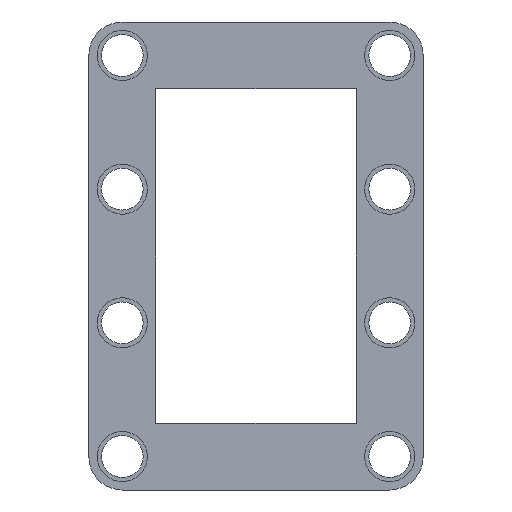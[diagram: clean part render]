
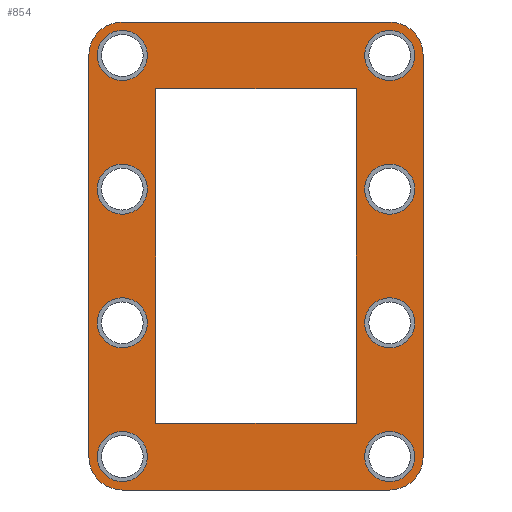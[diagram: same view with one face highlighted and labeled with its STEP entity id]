
A CAD part, front view. The second image highlights one B-rep face of the part: STEP entity #854.
In plain terms, the highlighted planar face has unit normal (0, -1, 0).
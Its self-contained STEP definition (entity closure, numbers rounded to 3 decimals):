
#40=FACE_BOUND('',#208,.T.);
#41=FACE_BOUND('',#209,.T.);
#42=FACE_BOUND('',#210,.T.);
#43=FACE_BOUND('',#211,.T.);
#44=FACE_BOUND('',#212,.T.);
#45=FACE_BOUND('',#213,.T.);
#46=FACE_BOUND('',#214,.T.);
#47=FACE_BOUND('',#215,.T.);
#48=FACE_BOUND('',#216,.T.);
#74=PLANE('',#978);
#128=FACE_OUTER_BOUND('',#207,.T.);
#207=EDGE_LOOP('',(#753,#754,#755,#756,#757,#758,#759,#760));
#208=EDGE_LOOP('',(#761));
#209=EDGE_LOOP('',(#762));
#210=EDGE_LOOP('',(#763));
#211=EDGE_LOOP('',(#764));
#212=EDGE_LOOP('',(#765));
#213=EDGE_LOOP('',(#766));
#214=EDGE_LOOP('',(#767));
#215=EDGE_LOOP('',(#768));
#216=EDGE_LOOP('',(#769,#770,#771,#772));
#241=LINE('',#1417,#293);
#245=LINE('',#1425,#297);
#248=LINE('',#1431,#300);
#251=LINE('',#1436,#303);
#253=LINE('',#1441,#305);
#258=LINE('',#1455,#310);
#262=LINE('',#1467,#314);
#266=LINE('',#1479,#318);
#293=VECTOR('',#1183,10.);
#297=VECTOR('',#1189,10.);
#300=VECTOR('',#1194,10.);
#303=VECTOR('',#1199,10.);
#305=VECTOR('',#1203,10.);
#310=VECTOR('',#1216,10.);
#314=VECTOR('',#1228,10.);
#318=VECTOR('',#1240,10.);
#321=CIRCLE('',#870,3.);
#324=CIRCLE('',#875,3.);
#327=CIRCLE('',#880,3.);
#330=CIRCLE('',#885,3.);
#333=CIRCLE('',#890,3.);
#336=CIRCLE('',#895,3.);
#339=CIRCLE('',#900,3.);
#342=CIRCLE('',#905,3.);
#369=CIRCLE('',#963,4.);
#371=CIRCLE('',#967,4.);
#373=CIRCLE('',#971,4.);
#375=CIRCLE('',#975,4.);
#377=VERTEX_POINT('',#1255);
#380=VERTEX_POINT('',#1264);
#383=VERTEX_POINT('',#1273);
#386=VERTEX_POINT('',#1282);
#389=VERTEX_POINT('',#1291);
#392=VERTEX_POINT('',#1300);
#395=VERTEX_POINT('',#1309);
#398=VERTEX_POINT('',#1318);
#425=VERTEX_POINT('',#1415);
#426=VERTEX_POINT('',#1416);
#429=VERTEX_POINT('',#1424);
#431=VERTEX_POINT('',#1430);
#433=VERTEX_POINT('',#1439);
#434=VERTEX_POINT('',#1440);
#437=VERTEX_POINT('',#1448);
#439=VERTEX_POINT('',#1454);
#441=VERTEX_POINT('',#1460);
#443=VERTEX_POINT('',#1466);
#445=VERTEX_POINT('',#1472);
#447=VERTEX_POINT('',#1478);
#449=EDGE_CURVE('',#377,#377,#321,.T.);
#453=EDGE_CURVE('',#380,#380,#324,.T.);
#457=EDGE_CURVE('',#383,#383,#327,.T.);
#461=EDGE_CURVE('',#386,#386,#330,.T.);
#465=EDGE_CURVE('',#389,#389,#333,.T.);
#469=EDGE_CURVE('',#392,#392,#336,.T.);
#473=EDGE_CURVE('',#395,#395,#339,.T.);
#477=EDGE_CURVE('',#398,#398,#342,.T.);
#521=EDGE_CURVE('',#425,#426,#241,.T.);
#525=EDGE_CURVE('',#429,#425,#245,.T.);
#528=EDGE_CURVE('',#431,#429,#248,.T.);
#531=EDGE_CURVE('',#426,#431,#251,.T.);
#533=EDGE_CURVE('',#433,#434,#253,.T.);
#537=EDGE_CURVE('',#437,#433,#369,.T.);
#540=EDGE_CURVE('',#439,#437,#258,.T.);
#543=EDGE_CURVE('',#441,#439,#371,.T.);
#546=EDGE_CURVE('',#443,#441,#262,.T.);
#549=EDGE_CURVE('',#445,#443,#373,.T.);
#552=EDGE_CURVE('',#447,#445,#266,.T.);
#555=EDGE_CURVE('',#434,#447,#375,.T.);
#753=ORIENTED_EDGE('',*,*,#555,.F.);
#754=ORIENTED_EDGE('',*,*,#533,.F.);
#755=ORIENTED_EDGE('',*,*,#537,.F.);
#756=ORIENTED_EDGE('',*,*,#540,.F.);
#757=ORIENTED_EDGE('',*,*,#543,.F.);
#758=ORIENTED_EDGE('',*,*,#546,.F.);
#759=ORIENTED_EDGE('',*,*,#549,.F.);
#760=ORIENTED_EDGE('',*,*,#552,.F.);
#761=ORIENTED_EDGE('',*,*,#449,.T.);
#762=ORIENTED_EDGE('',*,*,#453,.T.);
#763=ORIENTED_EDGE('',*,*,#457,.T.);
#764=ORIENTED_EDGE('',*,*,#461,.T.);
#765=ORIENTED_EDGE('',*,*,#465,.T.);
#766=ORIENTED_EDGE('',*,*,#469,.T.);
#767=ORIENTED_EDGE('',*,*,#473,.T.);
#768=ORIENTED_EDGE('',*,*,#477,.T.);
#769=ORIENTED_EDGE('',*,*,#531,.F.);
#770=ORIENTED_EDGE('',*,*,#521,.F.);
#771=ORIENTED_EDGE('',*,*,#525,.F.);
#772=ORIENTED_EDGE('',*,*,#528,.F.);
#854=ADVANCED_FACE('',(#128,#40,#41,#42,#43,#44,#45,#46,#47,#48),#74,.F.);
#870=AXIS2_PLACEMENT_3D('',#1256,#983,#984);
#875=AXIS2_PLACEMENT_3D('',#1265,#994,#995);
#880=AXIS2_PLACEMENT_3D('',#1274,#1005,#1006);
#885=AXIS2_PLACEMENT_3D('',#1283,#1016,#1017);
#890=AXIS2_PLACEMENT_3D('',#1292,#1027,#1028);
#895=AXIS2_PLACEMENT_3D('',#1301,#1038,#1039);
#900=AXIS2_PLACEMENT_3D('',#1310,#1049,#1050);
#905=AXIS2_PLACEMENT_3D('',#1319,#1060,#1061);
#963=AXIS2_PLACEMENT_3D('',#1449,#1209,#1210);
#967=AXIS2_PLACEMENT_3D('',#1461,#1221,#1222);
#971=AXIS2_PLACEMENT_3D('',#1473,#1233,#1234);
#975=AXIS2_PLACEMENT_3D('',#1484,#1245,#1246);
#978=AXIS2_PLACEMENT_3D('',#1487,#1251,#1252);
#983=DIRECTION('center_axis',(0.,1.,0.));
#984=DIRECTION('ref_axis',(-1.,0.,0.));
#994=DIRECTION('center_axis',(0.,1.,0.));
#995=DIRECTION('ref_axis',(-1.,0.,0.));
#1005=DIRECTION('center_axis',(0.,1.,0.));
#1006=DIRECTION('ref_axis',(-1.,0.,0.));
#1016=DIRECTION('center_axis',(0.,1.,0.));
#1017=DIRECTION('ref_axis',(-1.,0.,0.));
#1027=DIRECTION('center_axis',(0.,1.,0.));
#1028=DIRECTION('ref_axis',(-1.,0.,0.));
#1038=DIRECTION('center_axis',(0.,1.,0.));
#1039=DIRECTION('ref_axis',(-1.,0.,0.));
#1049=DIRECTION('center_axis',(0.,1.,0.));
#1050=DIRECTION('ref_axis',(-1.,0.,0.));
#1060=DIRECTION('center_axis',(0.,1.,0.));
#1061=DIRECTION('ref_axis',(-1.,0.,0.));
#1183=DIRECTION('',(0.,0.,-1.));
#1189=DIRECTION('',(-1.,0.,0.));
#1194=DIRECTION('',(0.,0.,1.));
#1199=DIRECTION('',(1.,0.,0.));
#1203=DIRECTION('',(1.,0.,0.));
#1209=DIRECTION('center_axis',(0.,1.,0.));
#1210=DIRECTION('ref_axis',(0.,0.,-1.));
#1216=DIRECTION('',(0.,0.,1.));
#1221=DIRECTION('center_axis',(0.,1.,0.));
#1222=DIRECTION('ref_axis',(0.,0.,-1.));
#1228=DIRECTION('',(-1.,0.,0.));
#1233=DIRECTION('center_axis',(0.,1.,0.));
#1234=DIRECTION('ref_axis',(0.,0.,1.));
#1240=DIRECTION('',(0.,0.,-1.));
#1245=DIRECTION('center_axis',(0.,1.,0.));
#1246=DIRECTION('ref_axis',(0.,0.,1.));
#1251=DIRECTION('center_axis',(0.,1.,0.));
#1252=DIRECTION('ref_axis',(1.,0.,0.));
#1255=CARTESIAN_POINT('',(19.,0.,8.));
#1256=CARTESIAN_POINT('Origin',(16.,0.,8.));
#1264=CARTESIAN_POINT('',(19.,0.,-24.));
#1265=CARTESIAN_POINT('Origin',(16.,0.,-24.));
#1273=CARTESIAN_POINT('',(19.,0.,-8.));
#1274=CARTESIAN_POINT('Origin',(16.,0.,-8.));
#1282=CARTESIAN_POINT('',(19.,0.,24.));
#1283=CARTESIAN_POINT('Origin',(16.,0.,24.));
#1291=CARTESIAN_POINT('',(-13.,0.,8.));
#1292=CARTESIAN_POINT('Origin',(-16.,0.,8.));
#1300=CARTESIAN_POINT('',(-13.,0.,-24.));
#1301=CARTESIAN_POINT('Origin',(-16.,0.,-24.));
#1309=CARTESIAN_POINT('',(-13.,0.,-8.));
#1310=CARTESIAN_POINT('Origin',(-16.,0.,-8.));
#1318=CARTESIAN_POINT('',(-13.,0.,24.));
#1319=CARTESIAN_POINT('Origin',(-16.,0.,24.));
#1415=CARTESIAN_POINT('',(-12.,0.,20.));
#1416=CARTESIAN_POINT('',(-12.,0.,-20.));
#1417=CARTESIAN_POINT('',(-12.,0.,24.));
#1424=CARTESIAN_POINT('',(12.,0.,20.));
#1425=CARTESIAN_POINT('',(16.,0.,20.));
#1430=CARTESIAN_POINT('',(12.,0.,-20.));
#1431=CARTESIAN_POINT('',(12.,0.,-24.));
#1436=CARTESIAN_POINT('',(-16.,0.,-20.));
#1439=CARTESIAN_POINT('',(-16.,0.,28.));
#1440=CARTESIAN_POINT('',(16.,0.,28.));
#1441=CARTESIAN_POINT('',(-16.,0.,28.));
#1448=CARTESIAN_POINT('',(-20.,0.,24.));
#1449=CARTESIAN_POINT('Origin',(-16.,0.,24.));
#1454=CARTESIAN_POINT('',(-20.,0.,-24.));
#1455=CARTESIAN_POINT('',(-20.,0.,-24.));
#1460=CARTESIAN_POINT('',(-16.,0.,-28.));
#1461=CARTESIAN_POINT('Origin',(-16.,0.,-24.));
#1466=CARTESIAN_POINT('',(16.,0.,-28.));
#1467=CARTESIAN_POINT('',(16.,0.,-28.));
#1472=CARTESIAN_POINT('',(20.,0.,-24.));
#1473=CARTESIAN_POINT('Origin',(16.,0.,-24.));
#1478=CARTESIAN_POINT('',(20.,0.,24.));
#1479=CARTESIAN_POINT('',(20.,0.,24.));
#1484=CARTESIAN_POINT('Origin',(16.,0.,24.));
#1487=CARTESIAN_POINT('Origin',(0.,0.,0.));
